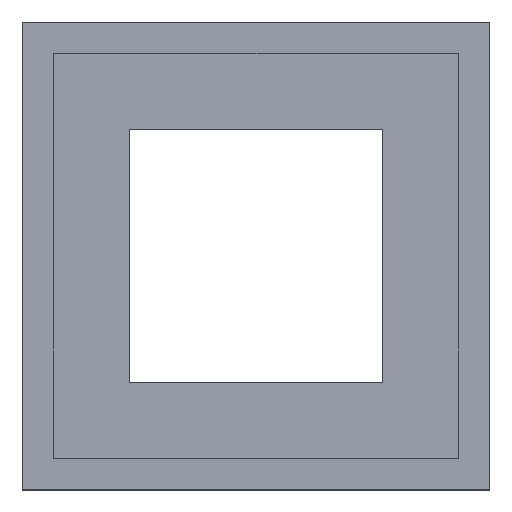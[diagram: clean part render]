
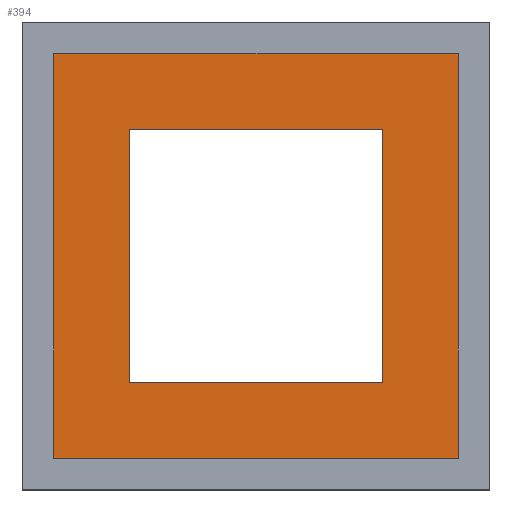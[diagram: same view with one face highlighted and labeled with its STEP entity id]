
A CAD part, top view. The second image highlights one B-rep face of the part: STEP entity #394.
In plain terms, the highlighted planar face has unit normal (0, 0, 1).
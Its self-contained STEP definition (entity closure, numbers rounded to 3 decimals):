
#233 = PLANE('',#234);
#234 = AXIS2_PLACEMENT_3D('',#235,#236,#237);
#235 = CARTESIAN_POINT('',(-11.25,-11.25,1.4));
#236 = DIRECTION('',(0.,1.,0.));
#237 = DIRECTION('',(0.,0.,1.));
#259 = PLANE('',#260);
#260 = AXIS2_PLACEMENT_3D('',#261,#262,#263);
#261 = CARTESIAN_POINT('',(-11.25,-11.25,1.4));
#262 = DIRECTION('',(1.,0.,0.));
#263 = DIRECTION('',(0.,0.,1.));
#285 = PLANE('',#286);
#286 = AXIS2_PLACEMENT_3D('',#287,#288,#289);
#287 = CARTESIAN_POINT('',(-11.25,11.25,1.4));
#288 = DIRECTION('',(0.,1.,0.));
#289 = DIRECTION('',(0.,0.,1.));
#309 = PLANE('',#310);
#310 = AXIS2_PLACEMENT_3D('',#311,#312,#313);
#311 = CARTESIAN_POINT('',(11.25,-11.25,1.4));
#312 = DIRECTION('',(1.,0.,0.));
#313 = DIRECTION('',(0.,0.,1.));
#324 = VERTEX_POINT('',#325);
#325 = CARTESIAN_POINT('',(-11.25,-11.25,1.5));
#346 = EDGE_CURVE('',#324,#347,#349,.T.);
#347 = VERTEX_POINT('',#348);
#348 = CARTESIAN_POINT('',(-11.25,11.25,1.5));
#349 = SURFACE_CURVE('',#350,(#354,#360),.PCURVE_S1.);
#350 = LINE('',#351,#352);
#351 = CARTESIAN_POINT('',(-11.25,-12.125,1.5));
#352 = VECTOR('',#353,1.);
#353 = DIRECTION('',(0.,1.,0.));
#354 = PCURVE('',#259,#355);
#355 = DEFINITIONAL_REPRESENTATION('',(#356),#359);
#356 = B_SPLINE_CURVE_WITH_KNOTS('',1,(#357,#358),.UNSPECIFIED.,.F.,.F.,
  (2,2),(0.875,23.375),.PIECEWISE_BEZIER_KNOTS.);
#357 = CARTESIAN_POINT('',(0.1,0.));
#358 = CARTESIAN_POINT('',(0.1,-22.5));
#359 = ( GEOMETRIC_REPRESENTATION_CONTEXT(2) 
PARAMETRIC_REPRESENTATION_CONTEXT() REPRESENTATION_CONTEXT('2D SPACE',''
  ) );
#360 = PCURVE('',#361,#366);
#361 = PLANE('',#362);
#362 = AXIS2_PLACEMENT_3D('',#363,#364,#365);
#363 = CARTESIAN_POINT('',(-13.,-13.,1.5));
#364 = DIRECTION('',(0.,0.,1.));
#365 = DIRECTION('',(1.,0.,0.));
#366 = DEFINITIONAL_REPRESENTATION('',(#367),#371);
#367 = LINE('',#368,#369);
#368 = CARTESIAN_POINT('',(1.75,0.875));
#369 = VECTOR('',#370,1.);
#370 = DIRECTION('',(0.,1.));
#371 = ( GEOMETRIC_REPRESENTATION_CONTEXT(2) 
PARAMETRIC_REPRESENTATION_CONTEXT() REPRESENTATION_CONTEXT('2D SPACE',''
  ) );
#394 = ADVANCED_FACE('',(#395,#462),#361,.T.);
#395 = FACE_BOUND('',#396,.T.);
#396 = EDGE_LOOP('',(#397,#419,#441,#461));
#397 = ORIENTED_EDGE('',*,*,#398,.F.);
#398 = EDGE_CURVE('',#399,#324,#401,.T.);
#399 = VERTEX_POINT('',#400);
#400 = CARTESIAN_POINT('',(11.25,-11.25,1.5));
#401 = SURFACE_CURVE('',#402,(#406,#413),.PCURVE_S1.);
#402 = LINE('',#403,#404);
#403 = CARTESIAN_POINT('',(-12.125,-11.25,1.5));
#404 = VECTOR('',#405,1.);
#405 = DIRECTION('',(-1.,0.,0.));
#406 = PCURVE('',#361,#407);
#407 = DEFINITIONAL_REPRESENTATION('',(#408),#412);
#408 = LINE('',#409,#410);
#409 = CARTESIAN_POINT('',(0.875,1.75));
#410 = VECTOR('',#411,1.);
#411 = DIRECTION('',(-1.,0.));
#412 = ( GEOMETRIC_REPRESENTATION_CONTEXT(2) 
PARAMETRIC_REPRESENTATION_CONTEXT() REPRESENTATION_CONTEXT('2D SPACE',''
  ) );
#413 = PCURVE('',#233,#414);
#414 = DEFINITIONAL_REPRESENTATION('',(#415),#418);
#415 = B_SPLINE_CURVE_WITH_KNOTS('',1,(#416,#417),.UNSPECIFIED.,.F.,.F.,
  (2,2),(-23.375,-0.875),.PIECEWISE_BEZIER_KNOTS.);
#416 = CARTESIAN_POINT('',(0.1,22.5));
#417 = CARTESIAN_POINT('',(0.1,0.));
#418 = ( GEOMETRIC_REPRESENTATION_CONTEXT(2) 
PARAMETRIC_REPRESENTATION_CONTEXT() REPRESENTATION_CONTEXT('2D SPACE',''
  ) );
#419 = ORIENTED_EDGE('',*,*,#420,.T.);
#420 = EDGE_CURVE('',#399,#421,#423,.T.);
#421 = VERTEX_POINT('',#422);
#422 = CARTESIAN_POINT('',(11.25,11.25,1.5));
#423 = SURFACE_CURVE('',#424,(#428,#435),.PCURVE_S1.);
#424 = LINE('',#425,#426);
#425 = CARTESIAN_POINT('',(11.25,-12.125,1.5));
#426 = VECTOR('',#427,1.);
#427 = DIRECTION('',(0.,1.,0.));
#428 = PCURVE('',#361,#429);
#429 = DEFINITIONAL_REPRESENTATION('',(#430),#434);
#430 = LINE('',#431,#432);
#431 = CARTESIAN_POINT('',(24.25,0.875));
#432 = VECTOR('',#433,1.);
#433 = DIRECTION('',(0.,1.));
#434 = ( GEOMETRIC_REPRESENTATION_CONTEXT(2) 
PARAMETRIC_REPRESENTATION_CONTEXT() REPRESENTATION_CONTEXT('2D SPACE',''
  ) );
#435 = PCURVE('',#309,#436);
#436 = DEFINITIONAL_REPRESENTATION('',(#437),#440);
#437 = B_SPLINE_CURVE_WITH_KNOTS('',1,(#438,#439),.UNSPECIFIED.,.F.,.F.,
  (2,2),(0.875,23.375),.PIECEWISE_BEZIER_KNOTS.);
#438 = CARTESIAN_POINT('',(0.1,0.));
#439 = CARTESIAN_POINT('',(0.1,-22.5));
#440 = ( GEOMETRIC_REPRESENTATION_CONTEXT(2) 
PARAMETRIC_REPRESENTATION_CONTEXT() REPRESENTATION_CONTEXT('2D SPACE',''
  ) );
#441 = ORIENTED_EDGE('',*,*,#442,.T.);
#442 = EDGE_CURVE('',#421,#347,#443,.T.);
#443 = SURFACE_CURVE('',#444,(#448,#455),.PCURVE_S1.);
#444 = LINE('',#445,#446);
#445 = CARTESIAN_POINT('',(-12.125,11.25,1.5));
#446 = VECTOR('',#447,1.);
#447 = DIRECTION('',(-1.,0.,0.));
#448 = PCURVE('',#361,#449);
#449 = DEFINITIONAL_REPRESENTATION('',(#450),#454);
#450 = LINE('',#451,#452);
#451 = CARTESIAN_POINT('',(0.875,24.25));
#452 = VECTOR('',#453,1.);
#453 = DIRECTION('',(-1.,0.));
#454 = ( GEOMETRIC_REPRESENTATION_CONTEXT(2) 
PARAMETRIC_REPRESENTATION_CONTEXT() REPRESENTATION_CONTEXT('2D SPACE',''
  ) );
#455 = PCURVE('',#285,#456);
#456 = DEFINITIONAL_REPRESENTATION('',(#457),#460);
#457 = B_SPLINE_CURVE_WITH_KNOTS('',1,(#458,#459),.UNSPECIFIED.,.F.,.F.,
  (2,2),(-23.375,-0.875),.PIECEWISE_BEZIER_KNOTS.);
#458 = CARTESIAN_POINT('',(0.1,22.5));
#459 = CARTESIAN_POINT('',(0.1,0.));
#460 = ( GEOMETRIC_REPRESENTATION_CONTEXT(2) 
PARAMETRIC_REPRESENTATION_CONTEXT() REPRESENTATION_CONTEXT('2D SPACE',''
  ) );
#461 = ORIENTED_EDGE('',*,*,#346,.F.);
#462 = FACE_BOUND('',#463,.T.);
#463 = EDGE_LOOP('',(#464,#492,#518,#544));
#464 = ORIENTED_EDGE('',*,*,#465,.T.);
#465 = EDGE_CURVE('',#466,#468,#470,.T.);
#466 = VERTEX_POINT('',#467);
#467 = CARTESIAN_POINT('',(7.05,-7.05,1.5));
#468 = VERTEX_POINT('',#469);
#469 = CARTESIAN_POINT('',(-7.05,-7.05,1.5));
#470 = SURFACE_CURVE('',#471,(#475,#481),.PCURVE_S1.);
#471 = LINE('',#472,#473);
#472 = CARTESIAN_POINT('',(-10.025,-7.05,1.5));
#473 = VECTOR('',#474,1.);
#474 = DIRECTION('',(-1.,0.,0.));
#475 = PCURVE('',#361,#476);
#476 = DEFINITIONAL_REPRESENTATION('',(#477),#480);
#477 = B_SPLINE_CURVE_WITH_KNOTS('',1,(#478,#479),.UNSPECIFIED.,.F.,.F.,
  (2,2),(-17.075,-2.975),.PIECEWISE_BEZIER_KNOTS.);
#478 = CARTESIAN_POINT('',(20.05,5.95));
#479 = CARTESIAN_POINT('',(5.95,5.95));
#480 = ( GEOMETRIC_REPRESENTATION_CONTEXT(2) 
PARAMETRIC_REPRESENTATION_CONTEXT() REPRESENTATION_CONTEXT('2D SPACE',''
  ) );
#481 = PCURVE('',#482,#487);
#482 = PLANE('',#483);
#483 = AXIS2_PLACEMENT_3D('',#484,#485,#486);
#484 = CARTESIAN_POINT('',(-7.05,-7.05,-0.2));
#485 = DIRECTION('',(0.,1.,0.));
#486 = DIRECTION('',(0.,0.,1.));
#487 = DEFINITIONAL_REPRESENTATION('',(#488),#491);
#488 = B_SPLINE_CURVE_WITH_KNOTS('',1,(#489,#490),.UNSPECIFIED.,.F.,.F.,
  (2,2),(-17.075,-2.975),.PIECEWISE_BEZIER_KNOTS.);
#489 = CARTESIAN_POINT('',(1.7,14.1));
#490 = CARTESIAN_POINT('',(1.7,0.));
#491 = ( GEOMETRIC_REPRESENTATION_CONTEXT(2) 
PARAMETRIC_REPRESENTATION_CONTEXT() REPRESENTATION_CONTEXT('2D SPACE',''
  ) );
#492 = ORIENTED_EDGE('',*,*,#493,.T.);
#493 = EDGE_CURVE('',#468,#494,#496,.T.);
#494 = VERTEX_POINT('',#495);
#495 = CARTESIAN_POINT('',(-7.05,7.05,1.5));
#496 = SURFACE_CURVE('',#497,(#501,#507),.PCURVE_S1.);
#497 = LINE('',#498,#499);
#498 = CARTESIAN_POINT('',(-7.05,-10.025,1.5));
#499 = VECTOR('',#500,1.);
#500 = DIRECTION('',(0.,1.,0.));
#501 = PCURVE('',#361,#502);
#502 = DEFINITIONAL_REPRESENTATION('',(#503),#506);
#503 = B_SPLINE_CURVE_WITH_KNOTS('',1,(#504,#505),.UNSPECIFIED.,.F.,.F.,
  (2,2),(2.975,17.075),.PIECEWISE_BEZIER_KNOTS.);
#504 = CARTESIAN_POINT('',(5.95,5.95));
#505 = CARTESIAN_POINT('',(5.95,20.05));
#506 = ( GEOMETRIC_REPRESENTATION_CONTEXT(2) 
PARAMETRIC_REPRESENTATION_CONTEXT() REPRESENTATION_CONTEXT('2D SPACE',''
  ) );
#507 = PCURVE('',#508,#513);
#508 = PLANE('',#509);
#509 = AXIS2_PLACEMENT_3D('',#510,#511,#512);
#510 = CARTESIAN_POINT('',(-7.05,-7.05,-0.2));
#511 = DIRECTION('',(1.,0.,0.));
#512 = DIRECTION('',(0.,0.,1.));
#513 = DEFINITIONAL_REPRESENTATION('',(#514),#517);
#514 = B_SPLINE_CURVE_WITH_KNOTS('',1,(#515,#516),.UNSPECIFIED.,.F.,.F.,
  (2,2),(2.975,17.075),.PIECEWISE_BEZIER_KNOTS.);
#515 = CARTESIAN_POINT('',(1.7,0.));
#516 = CARTESIAN_POINT('',(1.7,-14.1));
#517 = ( GEOMETRIC_REPRESENTATION_CONTEXT(2) 
PARAMETRIC_REPRESENTATION_CONTEXT() REPRESENTATION_CONTEXT('2D SPACE',''
  ) );
#518 = ORIENTED_EDGE('',*,*,#519,.F.);
#519 = EDGE_CURVE('',#520,#494,#522,.T.);
#520 = VERTEX_POINT('',#521);
#521 = CARTESIAN_POINT('',(7.05,7.05,1.5));
#522 = SURFACE_CURVE('',#523,(#527,#533),.PCURVE_S1.);
#523 = LINE('',#524,#525);
#524 = CARTESIAN_POINT('',(-10.025,7.05,1.5));
#525 = VECTOR('',#526,1.);
#526 = DIRECTION('',(-1.,0.,0.));
#527 = PCURVE('',#361,#528);
#528 = DEFINITIONAL_REPRESENTATION('',(#529),#532);
#529 = B_SPLINE_CURVE_WITH_KNOTS('',1,(#530,#531),.UNSPECIFIED.,.F.,.F.,
  (2,2),(-17.075,-2.975),.PIECEWISE_BEZIER_KNOTS.);
#530 = CARTESIAN_POINT('',(20.05,20.05));
#531 = CARTESIAN_POINT('',(5.95,20.05));
#532 = ( GEOMETRIC_REPRESENTATION_CONTEXT(2) 
PARAMETRIC_REPRESENTATION_CONTEXT() REPRESENTATION_CONTEXT('2D SPACE',''
  ) );
#533 = PCURVE('',#534,#539);
#534 = PLANE('',#535);
#535 = AXIS2_PLACEMENT_3D('',#536,#537,#538);
#536 = CARTESIAN_POINT('',(-7.05,7.05,-0.2));
#537 = DIRECTION('',(0.,1.,0.));
#538 = DIRECTION('',(0.,0.,1.));
#539 = DEFINITIONAL_REPRESENTATION('',(#540),#543);
#540 = B_SPLINE_CURVE_WITH_KNOTS('',1,(#541,#542),.UNSPECIFIED.,.F.,.F.,
  (2,2),(-17.075,-2.975),.PIECEWISE_BEZIER_KNOTS.);
#541 = CARTESIAN_POINT('',(1.7,14.1));
#542 = CARTESIAN_POINT('',(1.7,0.));
#543 = ( GEOMETRIC_REPRESENTATION_CONTEXT(2) 
PARAMETRIC_REPRESENTATION_CONTEXT() REPRESENTATION_CONTEXT('2D SPACE',''
  ) );
#544 = ORIENTED_EDGE('',*,*,#545,.F.);
#545 = EDGE_CURVE('',#466,#520,#546,.T.);
#546 = SURFACE_CURVE('',#547,(#551,#557),.PCURVE_S1.);
#547 = LINE('',#548,#549);
#548 = CARTESIAN_POINT('',(7.05,-10.025,1.5));
#549 = VECTOR('',#550,1.);
#550 = DIRECTION('',(0.,1.,0.));
#551 = PCURVE('',#361,#552);
#552 = DEFINITIONAL_REPRESENTATION('',(#553),#556);
#553 = B_SPLINE_CURVE_WITH_KNOTS('',1,(#554,#555),.UNSPECIFIED.,.F.,.F.,
  (2,2),(2.975,17.075),.PIECEWISE_BEZIER_KNOTS.);
#554 = CARTESIAN_POINT('',(20.05,5.95));
#555 = CARTESIAN_POINT('',(20.05,20.05));
#556 = ( GEOMETRIC_REPRESENTATION_CONTEXT(2) 
PARAMETRIC_REPRESENTATION_CONTEXT() REPRESENTATION_CONTEXT('2D SPACE',''
  ) );
#557 = PCURVE('',#558,#563);
#558 = PLANE('',#559);
#559 = AXIS2_PLACEMENT_3D('',#560,#561,#562);
#560 = CARTESIAN_POINT('',(7.05,-7.05,-0.2));
#561 = DIRECTION('',(1.,0.,0.));
#562 = DIRECTION('',(0.,0.,1.));
#563 = DEFINITIONAL_REPRESENTATION('',(#564),#567);
#564 = B_SPLINE_CURVE_WITH_KNOTS('',1,(#565,#566),.UNSPECIFIED.,.F.,.F.,
  (2,2),(2.975,17.075),.PIECEWISE_BEZIER_KNOTS.);
#565 = CARTESIAN_POINT('',(1.7,0.));
#566 = CARTESIAN_POINT('',(1.7,-14.1));
#567 = ( GEOMETRIC_REPRESENTATION_CONTEXT(2) 
PARAMETRIC_REPRESENTATION_CONTEXT() REPRESENTATION_CONTEXT('2D SPACE',''
  ) );
